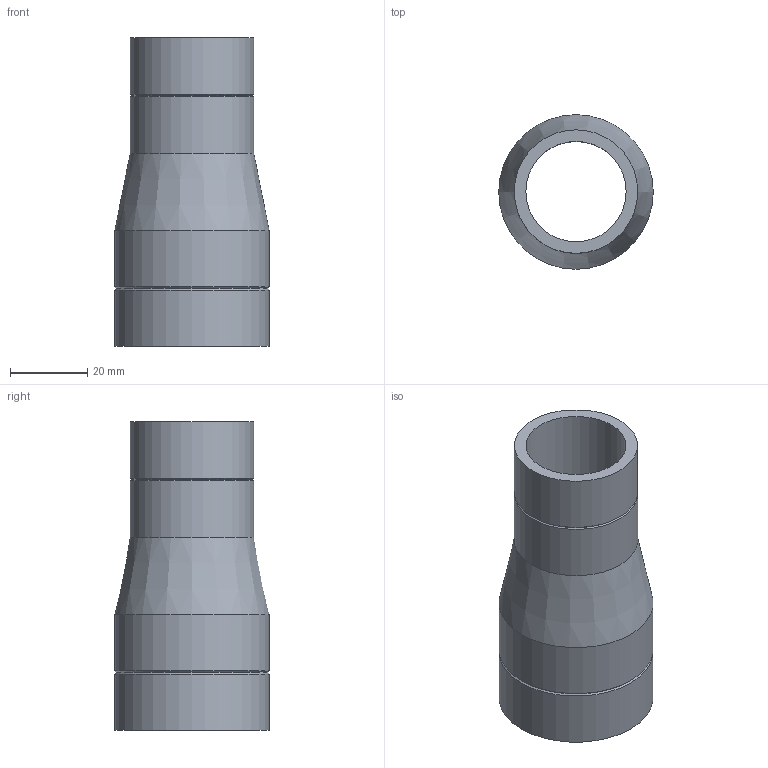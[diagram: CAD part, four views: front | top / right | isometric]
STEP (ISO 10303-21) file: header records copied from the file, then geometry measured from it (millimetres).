
FILE_DESCRIPTION(/* description */ (''),/* implementation_level */ '2;1');
FILE_NAME(/* name */ 'Z:\Geberit\Export\NewStep\360557.stp',/* time_stamp */ '2014-04-01T21:01:53+02:00',/* author */ ('nelson'),/* organization */ (''),/* preprocessor_version */ 'ST-DEVELOPER v15.2',/* originating_system */ 'Autodesk Inventor 2014',/* authorisation */ '');
FILE_SCHEMA (('AUTOMOTIVE_DESIGN { 1 0 10303 214 3 1 1 }'));
Length unit declared in the file: millimetre
Products named in the file (1): 360557
Bounding box: 40 x 40 x 80 mm (x, y, z)
Volume: 24851.2 mm3; surface area: 17357.7 mm2
Topology: 1 solids, 1 shells, 14 faces, 31 edges, 19 vertices
Faces by surface type: cone 6, cylinder 6, plane 2
Full cylindrical faces by diameter (mm): 26 x1, 32 x2, 34 x1, 40 x2
Entity records: 323 total; most frequent: DIRECTION 58, CARTESIAN_POINT 43, AXIS2_PLACEMENT_3D 29, EDGE_LOOP 28, ORIENTED_EDGE 28, FACE_BOUND 16, STYLED_ITEM 15, CIRCLE 14
